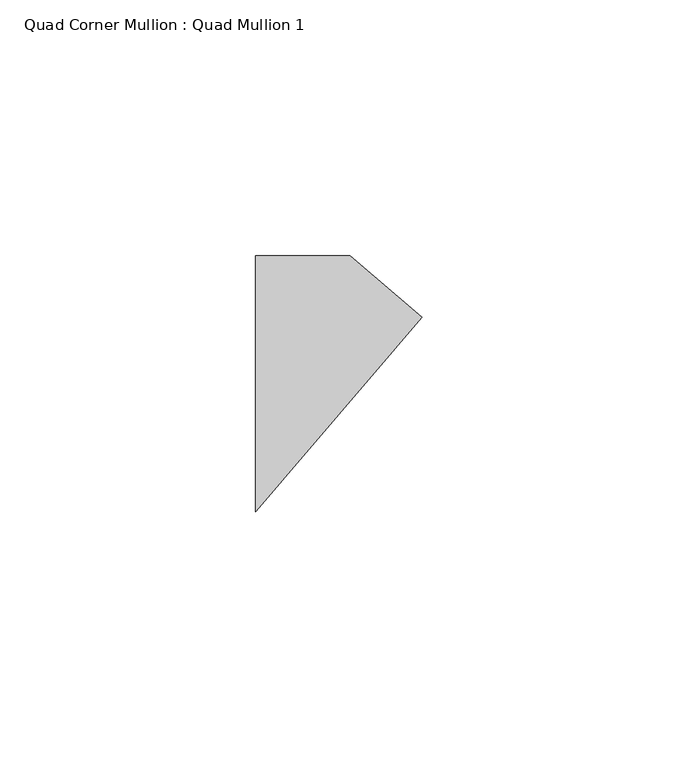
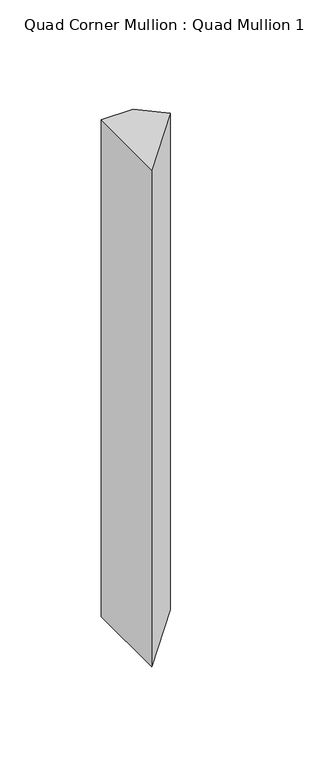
"""IFC4 building model written with IfcOpenShell, lengths in millimetres: member geometry, Quad Corner Mullion : Quad Mullion 1."""

from ifc_helpers import new_model, si_unit, frame, origin, place, context, project, spatial, polyline, outline, extrude, source, transform, mapped, element, save


def quad_corner_mullion_quad_mullion_1_75b199cb(model_context):
    return source(origin(), model_context, "Body", "SweptSolid", [
        extrude(outline(polyline([(23.250214, 13.0192096), (-9.223463, -25.0), (-9.223463, 25.0), (9.223463, 25.0), (23.250214, 13.0192096)])), frame((0.0, 0.0, -300.0), z_axis=(0.0, 0.0, 1.0), x_axis=(1.0, 0.0, 0.0)), (0.0, 0.0, 1.0), 300.0),
    ])


if __name__ == "__main__":
    model = new_model("IFC4")
    model_context = context("Model", 3, world=origin())
    ifc_project = project(units=[si_unit("LENGTHUNIT", "METRE", prefix="MILLI")], contexts=[model_context])
    site = spatial("IfcSite", under=ifc_project)
    building = spatial("IfcBuilding", under=site)
    placement = place(None, origin())
    quad_corner_mullion_quad_mullion_1_shape = quad_corner_mullion_quad_mullion_1_75b199cb(model_context)
    element("IfcMember", 1, ObjectType="Quad Corner Mullion : Quad Mullion 1", at=placement, inside=building, context=model_context, shape_type="MappedRepresentation", body=[
        mapped(quad_corner_mullion_quad_mullion_1_shape, transform((0.0, 0.0, 0.0), x_axis=(1.0, 0.0, 0.0), y_axis=(0.0, 1.0, 0.0), z_axis=(0.0, 0.0, 1.0))),
    ])
    save(model, "model.ifc")
